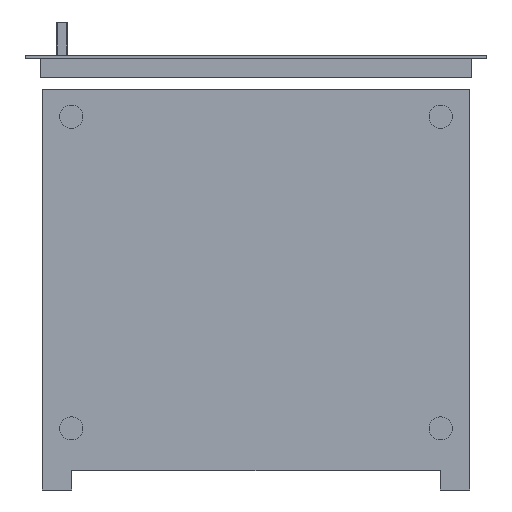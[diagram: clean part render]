
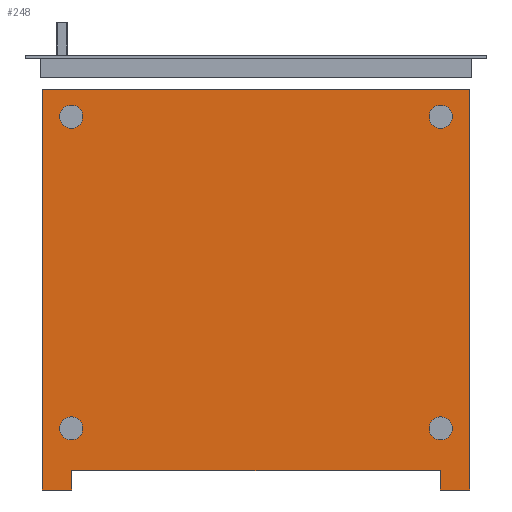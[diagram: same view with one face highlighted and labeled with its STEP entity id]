
A CAD part, front view. The second image highlights one B-rep face of the part: STEP entity #248.
In plain terms, the highlighted planar face has unit normal (0, -1, 0).
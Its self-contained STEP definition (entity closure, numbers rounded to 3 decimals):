
#1=DIRECTION('',(-1.,0.,0.));
#2=VECTOR('',#1,38.);
#3=CARTESIAN_POINT('',(277.5,-882.5,-260.));
#4=LINE('',#3,#2);
#5=DIRECTION('',(0.,0.,1.));
#6=VECTOR('',#5,25.);
#7=CARTESIAN_POINT('',(239.5,-882.5,-260.));
#8=LINE('',#7,#6);
#9=DIRECTION('',(-1.,0.,0.));
#10=VECTOR('',#9,479.);
#11=CARTESIAN_POINT('',(239.5,-882.5,-235.));
#12=LINE('',#11,#10);
#13=DIRECTION('',(0.,0.,-1.));
#14=VECTOR('',#13,25.);
#15=CARTESIAN_POINT('',(-239.5,-882.5,-235.));
#16=LINE('',#15,#14);
#17=DIRECTION('',(-1.,0.,0.));
#18=VECTOR('',#17,38.);
#19=CARTESIAN_POINT('',(-239.5,-882.5,-260.));
#20=LINE('',#19,#18);
#21=DIRECTION('',(0.,0.,1.));
#22=VECTOR('',#21,520.);
#23=CARTESIAN_POINT('',(-277.5,-882.5,-260.));
#24=LINE('',#23,#22);
#25=DIRECTION('',(1.,0.,0.));
#26=VECTOR('',#25,555.);
#27=CARTESIAN_POINT('',(-277.5,-882.5,260.));
#28=LINE('',#27,#26);
#29=DIRECTION('',(0.,0.,-1.));
#30=VECTOR('',#29,520.);
#31=CARTESIAN_POINT('',(277.5,-882.5,260.));
#32=LINE('',#31,#30);
#169=CARTESIAN_POINT('',(277.5,-882.5,-260.));
#170=CARTESIAN_POINT('',(239.5,-882.5,-260.));
#171=VERTEX_POINT('',#169);
#172=VERTEX_POINT('',#170);
#173=CARTESIAN_POINT('',(239.5,-882.5,-235.));
#174=VERTEX_POINT('',#173);
#175=CARTESIAN_POINT('',(-239.5,-882.5,-235.));
#176=VERTEX_POINT('',#175);
#177=CARTESIAN_POINT('',(-239.5,-882.5,-260.));
#178=VERTEX_POINT('',#177);
#179=CARTESIAN_POINT('',(-277.5,-882.5,-260.));
#180=VERTEX_POINT('',#179);
#181=CARTESIAN_POINT('',(-277.5,-882.5,260.));
#182=VERTEX_POINT('',#181);
#183=CARTESIAN_POINT('',(277.5,-882.5,260.));
#184=VERTEX_POINT('',#183);
#225=CARTESIAN_POINT('',(0.,-882.5,0.));
#226=DIRECTION('',(0.,1.,0.));
#227=DIRECTION('',(1.,0.,0.));
#228=AXIS2_PLACEMENT_3D('',#225,#226,#227);
#229=PLANE('',#228);
#231=ORIENTED_EDGE('',*,*,#230,.T.);
#233=ORIENTED_EDGE('',*,*,#232,.T.);
#235=ORIENTED_EDGE('',*,*,#234,.T.);
#237=ORIENTED_EDGE('',*,*,#236,.T.);
#239=ORIENTED_EDGE('',*,*,#238,.T.);
#241=ORIENTED_EDGE('',*,*,#240,.T.);
#243=ORIENTED_EDGE('',*,*,#242,.T.);
#245=ORIENTED_EDGE('',*,*,#244,.T.);
#246=EDGE_LOOP('',(#231,#233,#235,#237,#239,#241,#243,#245));
#247=FACE_OUTER_BOUND('',#246,.F.);
#248=ADVANCED_FACE('',(#247),#229,.F.);
#230=EDGE_CURVE('',#171,#172,#4,.T.);
#232=EDGE_CURVE('',#172,#174,#8,.T.);
#234=EDGE_CURVE('',#174,#176,#12,.T.);
#236=EDGE_CURVE('',#176,#178,#16,.T.);
#238=EDGE_CURVE('',#178,#180,#20,.T.);
#240=EDGE_CURVE('',#180,#182,#24,.T.);
#242=EDGE_CURVE('',#182,#184,#28,.T.);
#244=EDGE_CURVE('',#184,#171,#32,.T.);
